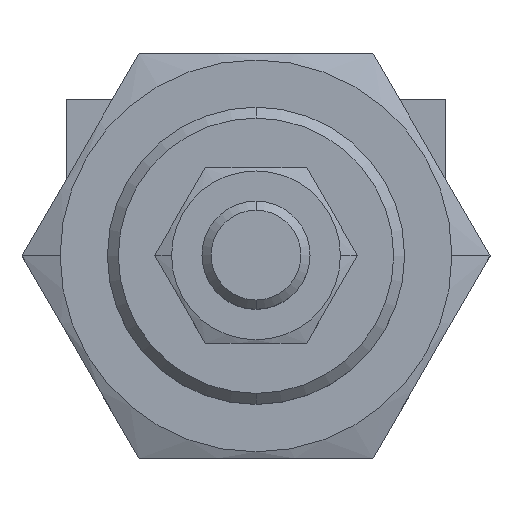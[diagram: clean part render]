
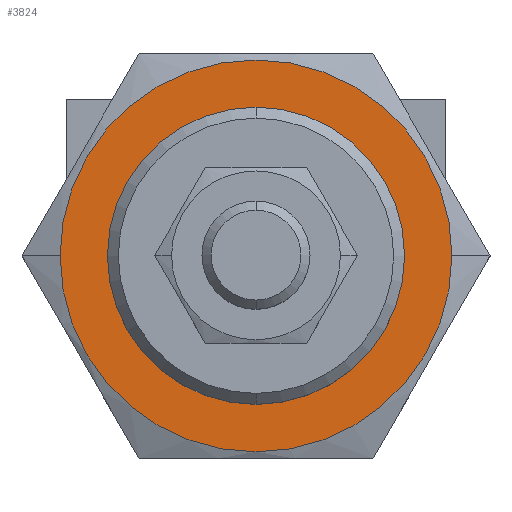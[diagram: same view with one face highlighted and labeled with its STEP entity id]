
A CAD part, top view. The second image highlights one B-rep face of the part: STEP entity #3824.
In plain terms, the highlighted planar face has unit normal (0, 0, 1).
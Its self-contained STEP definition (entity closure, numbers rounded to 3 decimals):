
#3371=CARTESIAN_POINT('',(0.,0.,0.));
#3372=DIRECTION('',(0.,0.,1.));
#3373=DIRECTION('',(0.,1.,0.));
#3374=AXIS2_PLACEMENT_3D('',#3371,#3372,#3373);
#3376=CARTESIAN_POINT('',(0.,0.,0.));
#3377=DIRECTION('',(0.,0.,1.));
#3378=DIRECTION('',(0.,-1.,0.));
#3379=AXIS2_PLACEMENT_3D('',#3376,#3377,#3378);
#3381=CARTESIAN_POINT('',(0.,0.,0.));
#3382=DIRECTION('',(0.,0.,1.));
#3383=DIRECTION('',(0.,1.,0.));
#3384=AXIS2_PLACEMENT_3D('',#3381,#3382,#3383);
#3386=CARTESIAN_POINT('',(0.,0.,0.));
#3387=DIRECTION('',(0.,0.,1.));
#3388=DIRECTION('',(0.,-1.,0.));
#3389=AXIS2_PLACEMENT_3D('',#3386,#3387,#3388);
#3779=CARTESIAN_POINT('',(0.,11.,0.));
#3780=CARTESIAN_POINT('',(0.,-11.,0.));
#3781=VERTEX_POINT('',#3779);
#3782=VERTEX_POINT('',#3780);
#3783=CARTESIAN_POINT('',(0.,14.5,0.));
#3784=CARTESIAN_POINT('',(0.,-14.5,0.));
#3785=VERTEX_POINT('',#3783);
#3786=VERTEX_POINT('',#3784);
#3807=CARTESIAN_POINT('',(0.,0.,0.));
#3808=DIRECTION('',(0.,0.,-1.));
#3809=DIRECTION('',(0.,-1.,0.));
#3810=AXIS2_PLACEMENT_3D('',#3807,#3808,#3809);
#3811=PLANE('',#3810);
#3813=ORIENTED_EDGE('',*,*,#3812,.F.);
#3815=ORIENTED_EDGE('',*,*,#3814,.F.);
#3816=EDGE_LOOP('',(#3813,#3815));
#3817=FACE_OUTER_BOUND('',#3816,.F.);
#3819=ORIENTED_EDGE('',*,*,#3818,.T.);
#3821=ORIENTED_EDGE('',*,*,#3820,.T.);
#3822=EDGE_LOOP('',(#3819,#3821));
#3823=FACE_BOUND('',#3822,.F.);
#3824=ADVANCED_FACE('',(#3817,#3823),#3811,.F.);
#3375=CIRCLE('',#3374,11.);
#3380=CIRCLE('',#3379,11.);
#3385=CIRCLE('',#3384,14.5);
#3390=CIRCLE('',#3389,14.5);
#3812=EDGE_CURVE('',#3785,#3786,#3385,.T.);
#3814=EDGE_CURVE('',#3786,#3785,#3390,.T.);
#3818=EDGE_CURVE('',#3781,#3782,#3375,.T.);
#3820=EDGE_CURVE('',#3782,#3781,#3380,.T.);
